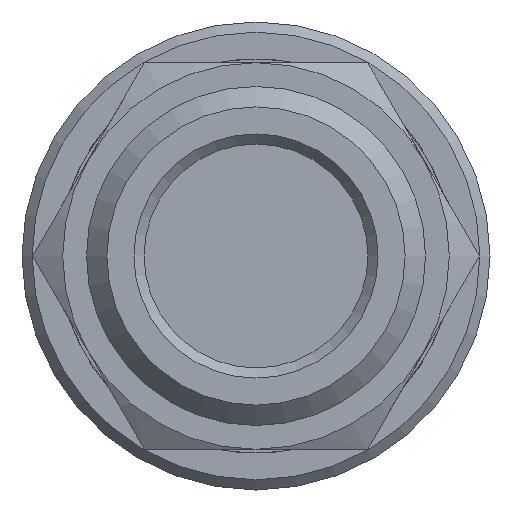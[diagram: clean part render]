
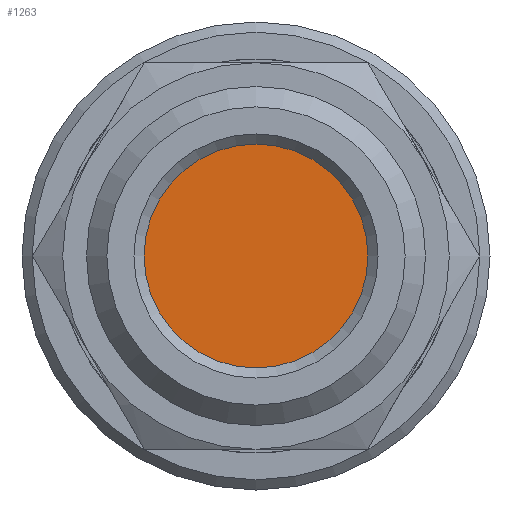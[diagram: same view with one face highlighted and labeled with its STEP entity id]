
A CAD part, left-side view. The second image highlights one B-rep face of the part: STEP entity #1263.
In plain terms, the highlighted planar face has unit normal (-1, 0, 0).
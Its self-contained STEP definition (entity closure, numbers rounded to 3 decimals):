
#93=PLANE('',#1460);
#162=FACE_OUTER_BOUND('',#246,.T.);
#246=EDGE_LOOP('',(#1114,#1115));
#437=CIRCLE('',#1383,5.5);
#438=CIRCLE('',#1384,5.5);
#545=VERTEX_POINT('',#2070);
#546=VERTEX_POINT('',#2071);
#681=EDGE_CURVE('',#545,#546,#437,.T.);
#683=EDGE_CURVE('',#546,#545,#438,.T.);
#1114=ORIENTED_EDGE('',*,*,#681,.F.);
#1115=ORIENTED_EDGE('',*,*,#683,.F.);
#1263=ADVANCED_FACE('',(#162),#93,.T.);
#1383=AXIS2_PLACEMENT_3D('',#2072,#1676,#1677);
#1384=AXIS2_PLACEMENT_3D('',#2074,#1679,#1680);
#1460=AXIS2_PLACEMENT_3D('',#2305,#1867,#1868);
#1676=DIRECTION('center_axis',(1.,0.,0.));
#1677=DIRECTION('ref_axis',(0.,0.,-1.));
#1679=DIRECTION('center_axis',(1.,0.,0.));
#1680=DIRECTION('ref_axis',(0.,0.,-1.));
#1867=DIRECTION('center_axis',(-1.,0.,0.));
#1868=DIRECTION('ref_axis',(0.,0.,1.));
#2070=CARTESIAN_POINT('',(-2.75,5.5,0.));
#2071=CARTESIAN_POINT('',(-2.75,-5.5,0.));
#2072=CARTESIAN_POINT('Origin',(-2.75,0.,0.));
#2074=CARTESIAN_POINT('Origin',(-2.75,0.,0.));
#2305=CARTESIAN_POINT('Origin',(-2.75,5.5,0.));
